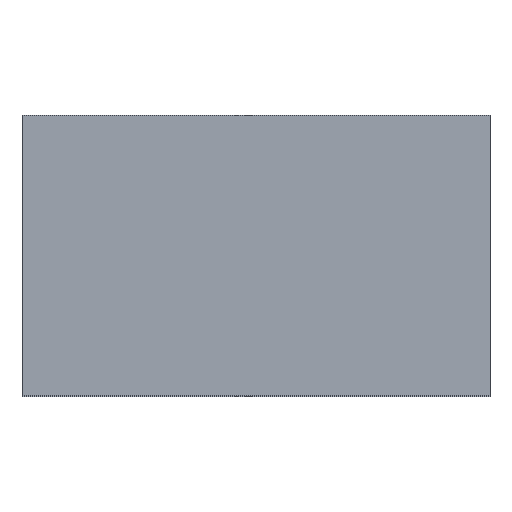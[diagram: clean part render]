
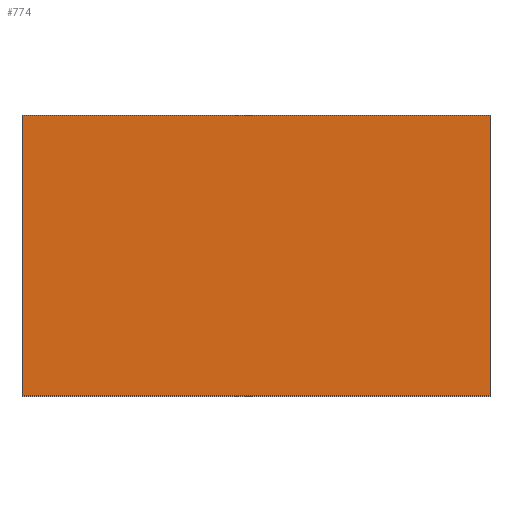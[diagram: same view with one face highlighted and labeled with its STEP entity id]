
A CAD part, top view. The second image highlights one B-rep face of the part: STEP entity #774.
In plain terms, the highlighted planar face has unit normal (0, 0, 1).
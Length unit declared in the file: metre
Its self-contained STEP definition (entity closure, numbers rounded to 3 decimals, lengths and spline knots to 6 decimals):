
#265=DIRECTION('',(0.,1.,0.));
#266=VECTOR('',#265,0.015);
#267=CARTESIAN_POINT('',(0.0125,0.,0.));
#268=LINE('',#267,#266);
#269=DIRECTION('',(1.,0.,0.));
#270=VECTOR('',#269,0.025);
#271=CARTESIAN_POINT('',(-0.0125,0.,0.));
#272=LINE('',#271,#270);
#273=DIRECTION('',(0.,-1.,0.));
#274=VECTOR('',#273,0.015);
#275=CARTESIAN_POINT('',(-0.0125,0.015,0.));
#276=LINE('',#275,#274);
#277=DIRECTION('',(-1.,0.,0.));
#278=VECTOR('',#277,0.025);
#279=CARTESIAN_POINT('',(0.0125,0.015,0.));
#280=LINE('',#279,#278);
#285=CARTESIAN_POINT('',(-0.0125,0.,0.));
#286=VERTEX_POINT('',#285);
#287=CARTESIAN_POINT('',(0.0125,0.,0.));
#288=VERTEX_POINT('',#287);
#289=CARTESIAN_POINT('',(-0.0125,0.015,0.));
#290=VERTEX_POINT('',#289);
#291=CARTESIAN_POINT('',(0.0125,0.015,0.));
#292=VERTEX_POINT('',#291);
#763=CARTESIAN_POINT('',(-0.0125,0.,0.));
#764=DIRECTION('',(0.,0.,1.));
#765=DIRECTION('',(1.,0.,0.));
#766=AXIS2_PLACEMENT_3D('',#763,#764,#765);
#767=PLANE('',#766);
#768=ORIENTED_EDGE('',*,*,#720,.F.);
#769=ORIENTED_EDGE('',*,*,#758,.F.);
#770=ORIENTED_EDGE('',*,*,#683,.F.);
#771=ORIENTED_EDGE('',*,*,#618,.F.);
#772=EDGE_LOOP('',(#768,#769,#770,#771));
#773=FACE_OUTER_BOUND('',#772,.F.);
#774=ADVANCED_FACE('',(#773),#767,.T.);
#618=EDGE_CURVE('',#292,#290,#280,.T.);
#683=EDGE_CURVE('',#290,#286,#276,.T.);
#720=EDGE_CURVE('',#288,#292,#268,.T.);
#758=EDGE_CURVE('',#286,#288,#272,.T.);
